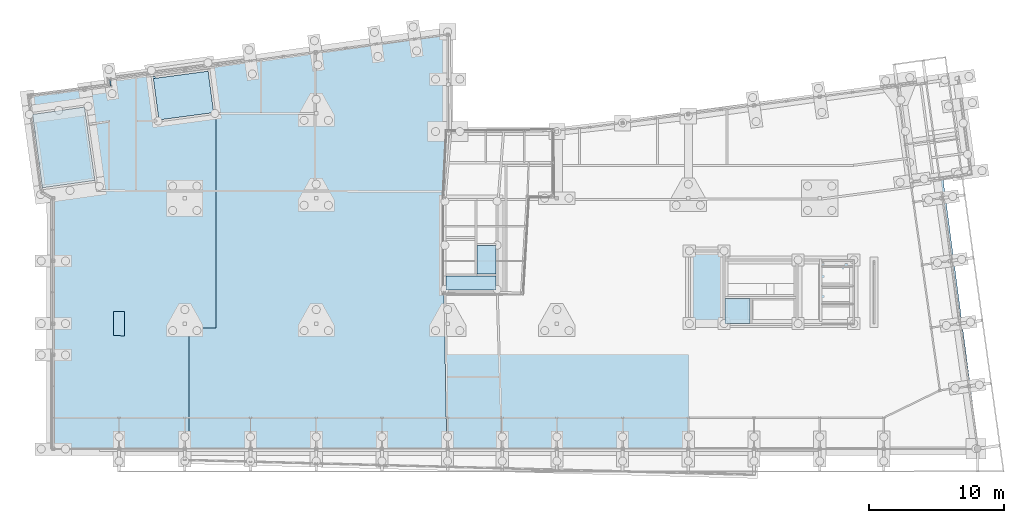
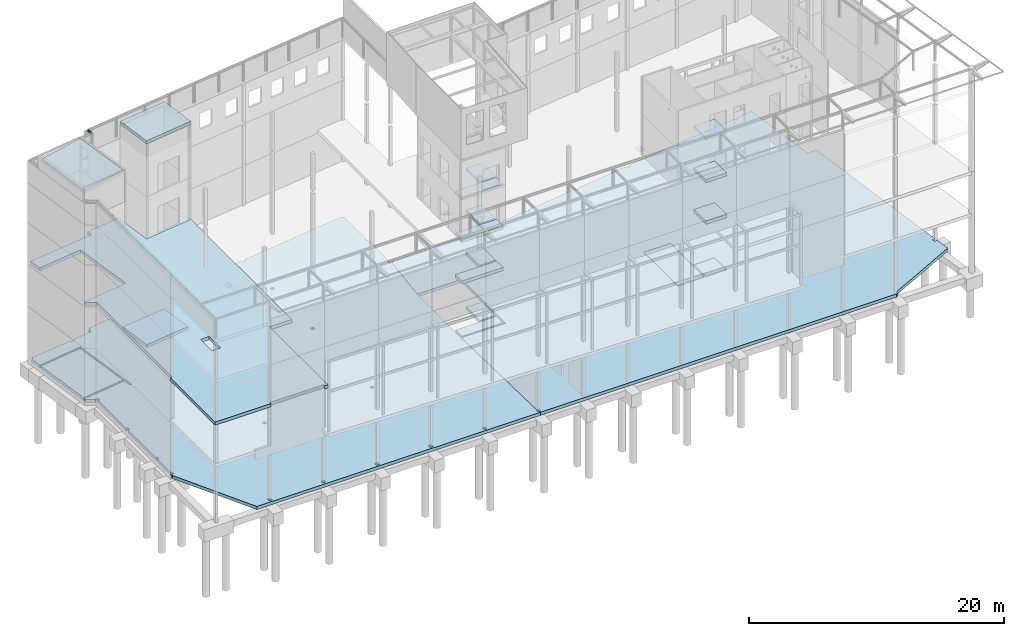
# One storey, part 66 of 82: 20 slabs, 1 beam.
"""IFC2X3 building model written with IfcOpenShell, lengths in millimetres."""

import ifcopenshell
import ifcopenshell.guid

model = None  # the IFC model being written
_history = None  # IfcOwnerHistory: only IFC2X3 demands one
_inside = {}  # id of a spatial element -> (the spatial element, [elements in it])
_under = {}  # id of a project, library or spatial element -> (it, [spatial elements below it])
_declared = {}  # id of a project -> (the project, [libraries it declares])
_typed = {}  # id of a type object -> (the type object, [elements of that type])
_made_of = {}  # id of a material, layer set ... -> (it, [elements and type objects made of it])


def new_model(schema):
    """Start an empty IFC model of exactly this schema.

    Asked for "IFC4X3", IfcOpenShell would pick the latest addendum, in which some entities
    have other attributes; the version numbers below select the first issue.
    IFC2X3 requires an IfcOwnerHistory on every rooted entity: one is made here for all.
    """
    global model, _history
    if schema == "IFC4X3":
        model = ifcopenshell.file(schema_version=(4, 3, 0, 0))
    else:
        model = ifcopenshell.file(schema=schema)
    _inside.clear()
    _under.clear()
    _declared.clear()
    _typed.clear()
    _made_of.clear()
    _history = None
    if model.schema == "IFC2X3":
        org = make("IfcOrganization", Name="unknown")
        user = make(
            "IfcPersonAndOrganization",
            ThePerson=make("IfcPerson", FamilyName="unknown"),
            TheOrganization=org,
        )
        app = make(
            "IfcApplication",
            ApplicationDeveloper=org,
            Version="unknown",
            ApplicationFullName="unknown",
            ApplicationIdentifier="unknown",
        )
        _history = make(
            "IfcOwnerHistory",
            OwningUser=user,
            OwningApplication=app,
            ChangeAction="ADDED",
            CreationDate=0,
        )
    return model


def make(cls, **values):
    """One entity of the class cls with the attributes given. An attribute that is None is left unset."""
    return model.create_entity(
        cls, **{name: value for name, value in values.items() if value is not None}
    )


def rooted(cls, **values):
    """An entity with a GlobalId (a new one), such as an element, a storey or a relation."""
    return make(cls, GlobalId=ifcopenshell.guid.new(), OwnerHistory=_history, **values)


def si_unit(unit_type, name, prefix=None):
    """IfcSIUnit, for example si_unit("LENGTHUNIT", "METRE", prefix="MILLI")."""
    return make("IfcSIUnit", UnitType=unit_type, Prefix=prefix, Name=name)


def assignment(units):
    """IfcUnitAssignment: the units of a project."""
    return None if units is None else make("IfcUnitAssignment", Units=units)


def point(xyz):
    """IfcCartesianPoint."""
    return None if xyz is None else make("IfcCartesianPoint", Coordinates=xyz)


def direction(xyz):
    """IfcDirection."""
    return None if xyz is None else make("IfcDirection", DirectionRatios=xyz)


def frame(location, z_axis=None, x_axis=None):
    """IfcAxis2Placement3D, a coordinate frame: its origin and axes. An axis left out is left unset."""
    return make(
        "IfcAxis2Placement3D",
        Location=point(location),
        Axis=direction(z_axis),
        RefDirection=direction(x_axis),
    )


def frame_2d(location, x_axis=None):
    """IfcAxis2Placement2D, a coordinate frame in the plane: its origin and x axis."""
    return make(
        "IfcAxis2Placement2D", Location=point(location), RefDirection=direction(x_axis)
    )


def origin_with_axes():
    """The frame at (0, 0, 0) with the z axis (0, 0, 1) and the x axis (1, 0, 0) written out."""
    return frame((0.0, 0.0, 0.0), z_axis=(0.0, 0.0, 1.0), x_axis=(1.0, 0.0, 0.0))


def place(relative_to, where):
    """IfcLocalPlacement: puts the frame where relative to a parent placement (None: the world)."""
    return make(
        "IfcLocalPlacement", PlacementRelTo=relative_to, RelativePlacement=where
    )


def context(
    kind, dimensions, precision=None, world=None, true_north=None, identifier=None
):
    """IfcGeometricRepresentationContext, for example the 3D "Model" context."""
    return make(
        "IfcGeometricRepresentationContext",
        ContextIdentifier=identifier,
        ContextType=kind,
        CoordinateSpaceDimension=dimensions,
        Precision=precision,
        WorldCoordinateSystem=world,
        TrueNorth=true_north,
    )


def subcontext(parent, identifier, kind, view, scale=None):
    """IfcGeometricRepresentationSubContext, for example "Body" below "Model"."""
    return make(
        "IfcGeometricRepresentationSubContext",
        ContextIdentifier=identifier,
        ContextType=kind,
        ParentContext=parent,
        TargetScale=scale,
        TargetView=view,
    )


def project(units=None, contexts=None):
    """IfcProject with its units and contexts."""
    return rooted(
        "IfcProject",
        Name="project",
        RepresentationContexts=contexts,
        UnitsInContext=assignment(units),
    )


def spatial(cls, under=None, at=None, **own):
    """A site, building, storey or space (cls), placed at a placement, below another one or the project."""
    s = rooted(cls, ObjectPlacement=at, **own)
    if under is not None:
        _under.setdefault(under.id(), (under, []))[1].append(s)
    return s


def polyline(points):
    """IfcPolyline through the points."""
    return make("IfcPolyline", Points=[point(p) for p in points])


def profile(cls, at=None, kind="AREA", **sizes):
    """A parametric profile (cls). Its sizes go by their IFC names, for example OverallWidth=200.0."""
    return make(cls, ProfileType=kind, Position=at, **sizes)


def rectangle(**sizes):
    """IfcRectangleProfileDef."""
    return profile("IfcRectangleProfileDef", **sizes)


def i_section(**sizes):
    """IfcIShapeProfileDef."""
    return profile("IfcIShapeProfileDef", **sizes)


def outline(outer, holes=None, kind="AREA"):
    """IfcArbitraryClosedProfileDef: a profile drawn as a closed curve; with holes, ...WithVoids."""
    if holes is None:
        return make("IfcArbitraryClosedProfileDef", ProfileType=kind, OuterCurve=outer)
    return make(
        "IfcArbitraryProfileDefWithVoids",
        ProfileType=kind,
        OuterCurve=outer,
        InnerCurves=holes,
    )


def extrude(swept, where, along, depth):
    """IfcExtrudedAreaSolid: the profile swept, set in the frame where, extruded along a direction by depth."""
    return make(
        "IfcExtrudedAreaSolid",
        SweptArea=swept,
        Position=where,
        ExtrudedDirection=direction(along),
        Depth=depth,
    )


def boolean(op, a, b):
    """IfcBooleanResult of two solids."""
    return make("IfcBooleanResult", Operator=op, FirstOperand=a, SecondOperand=b)


def shape(context_of_items, identifier, shape_type, items):
    """IfcShapeRepresentation: the items that make up one representation, for example the "Body"."""
    return make(
        "IfcShapeRepresentation",
        ContextOfItems=context_of_items,
        RepresentationIdentifier=identifier,
        RepresentationType=shape_type,
        Items=items,
    )


def material(Name=None, Category=None):
    """IfcMaterial."""
    return make("IfcMaterial", Name=Name, Category=Category)


def layer(
    of_material, thickness, ventilated=None, Name=None, Category=None, Priority=None
):
    """IfcMaterialLayer: one layer of a wall or slab, of a material (None: an air gap)."""
    return make(
        "IfcMaterialLayer",
        Material=of_material,
        LayerThickness=thickness,
        IsVentilated=ventilated,
        Name=Name,
        Category=Category,
        Priority=Priority,
    )


def layer_set(layers, Name=None):
    """IfcMaterialLayerSet."""
    return make("IfcMaterialLayerSet", MaterialLayers=layers, LayerSetName=Name)


def layer_usage(for_layer_set, set_direction, sense, offset, extent=None):
    """IfcMaterialLayerSetUsage: how a layer set lies in its element."""
    return make(
        "IfcMaterialLayerSetUsage",
        ForLayerSet=for_layer_set,
        LayerSetDirection=set_direction,
        DirectionSense=sense,
        OffsetFromReferenceLine=offset,
        ReferenceExtent=extent,
    )


def made_of(thing, what):
    """Note that an element or type object is made of a material, layer set ...; save() writes the relation."""
    if what is not None:
        _made_of.setdefault(what.id(), (what, []))[1].append(thing)
    return thing


def type_object(cls, material=None, **own):
    """A type object (cls), such as IfcWallType, which elements share."""
    return made_of(rooted(cls, **own), material)


def element(
    cls,
    number,
    at=None,
    inside=None,
    cuts=None,
    type_object=None,
    material=None,
    context=None,
    identifier="Body",
    shape_type=None,
    held_by="IfcProductDefinitionShape",
    body=None,
    shapes=None,
    **own,
):
    """One element of the class cls, such as IfcWall. Its Tag is "e" and its number.

    at: its placement. inside: the storey or other place that contains it. cuts: it is an
    opening in that element (IfcRelVoidsElement). A single representation is given by context,
    identifier, shape_type and body (its items); several are given by shapes. held_by: the class
    of the entity that holds the representations. save() writes the other relations.
    """
    e = rooted(cls, Tag="e%d" % number, ObjectPlacement=at, **own)
    if body is not None:
        shapes = [shape(context, identifier, shape_type, body)]
    if shapes is not None:
        e.Representation = make(held_by, Representations=shapes)
    if inside is not None:
        _inside.setdefault(inside.id(), (inside, []))[1].append(e)
    if cuts is not None:
        rooted(
            "IfcRelVoidsElement", RelatingBuildingElement=cuts, RelatedOpeningElement=e
        )
    if type_object is not None:
        _typed.setdefault(type_object.id(), (type_object, []))[1].append(e)
    return made_of(e, material)


def aggregate(whole, parts):
    """IfcRelAggregates: a whole, such as a stair, and the parts it consists of."""
    return rooted("IfcRelAggregates", RelatingObject=whole, RelatedObjects=parts)


def save(model, path):
    """Write the relations noted so far, then the file.

    IfcRelAggregates (storeys below a building ...), IfcRelContainedInSpatialStructure (elements
    in a storey), IfcRelDefinesByType, IfcRelAssociatesMaterial and IfcRelDeclares: one each for
    every whole, place, type object, material and project.
    """
    for whole, parts in _under.values():
        aggregate(whole, parts)
    for where, things in _inside.values():
        rooted(
            "IfcRelContainedInSpatialStructure",
            RelatedElements=things,
            RelatingStructure=where,
        )
    for kind, things in _typed.values():
        rooted("IfcRelDefinesByType", RelatedObjects=things, RelatingType=kind)
    for what, things in _made_of.values():
        rooted("IfcRelAssociatesMaterial", RelatedObjects=things, RelatingMaterial=what)
    for by, libraries in _declared.values():
        rooted("IfcRelDeclares", RelatingContext=by, RelatedDefinitions=libraries)
    model.write(path)


model = new_model("IFC2X3")

# Units and contexts
model_context = context("Model", 3, precision=1e-05, world=origin_with_axes())
body_context = subcontext(model_context, "Body", "Model", "MODEL_VIEW")
ifc_project = project(units=[si_unit("LENGTHUNIT", "METRE", prefix="MILLI"), si_unit("AREAUNIT", "SQUARE_METRE"), si_unit("VOLUMEUNIT", "CUBIC_METRE"), si_unit("MASSUNIT", "GRAM", prefix="KILO"), si_unit("TIMEUNIT", "SECOND"), si_unit("PLANEANGLEUNIT", "RADIAN"), si_unit("SOLIDANGLEUNIT", "STERADIAN"), si_unit("THERMODYNAMICTEMPERATUREUNIT", "DEGREE_CELSIUS"), si_unit("LUMINOUSINTENSITYUNIT", "LUMEN")], contexts=[model_context])

# Site, building, storey
site_placement = place(None, origin_with_axes())
site = spatial("IfcSite", under=ifc_project, at=site_placement, Name="Undefined", CompositionType="ELEMENT")
building_placement = place(site_placement, origin_with_axes())
building = spatial("IfcBuilding", under=site, at=building_placement, Name="Undefined", CompositionType="ELEMENT")
storey_placement = place(building_placement, origin_with_axes())
storey = spatial("IfcBuildingStorey", under=building, at=storey_placement, Name="Undefined", CompositionType="ELEMENT", Elevation=0.0)

# Beam
ifc_material_1 = material(Name="STEEL/S275JR")
beam_type = type_object("IfcBeamType", Name="IPE200", PredefinedType="NOTDEFINED")
beam_placement = place(storey_placement, frame((4253.42857384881, 26909.6952345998, 19025.0), z_axis=(0.0, 0.0, 1.0), x_axis=(-0.132305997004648, 0.991208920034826, 0.0)))
element("IfcBeam", 1, at=beam_placement, inside=storey, type_object=beam_type, material=ifc_material_1, Name="POUTRE", ObjectType="IPE200", context=body_context, shape_type="SweptSolid", body=[
    extrude(i_section(OverallWidth=100.0, OverallDepth=200.0, WebThickness=5.599999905, FlangeThickness=8.5, FilletRadius=12.0, at=frame_2d((5.17284206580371e-08, 4.49290382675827e-10), x_axis=(1.0, 0.0))), frame((495.998357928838, 0.0, 0.0), z_axis=(-1.0, 0.0, 0.0), x_axis=(-2.77555756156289e-17, -1.0, 0.0)), (0.0, 0.0, 1.0), 492.0),
])

# Slabs
ifc_material_2 = material(Name="CONCRETE/C30/37")
ifc_layer = layer(ifc_material_2, 300.0)
ifc_layer_set = layer_set([ifc_layer], Name="Floor: Insitu CONCRETE/C30/37")
ifc_layer_usage_1 = layer_usage(ifc_layer_set, "AXIS3", "POSITIVE", -150.0)
slab_type_1 = type_object("IfcSlabType", Name="300*3929", PredefinedType="NOTDEFINED")
slab_1_placement = place(storey_placement, frame((3099.04094366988, 19928.6061201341, 20009.0736937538), z_axis=(-0.0863451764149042, -0.0118589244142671, 0.99619469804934), x_axis=(-0.140890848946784, 0.990025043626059, -0.000426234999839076)))
element("IfcSlab", 2, at=slab_1_placement, inside=storey, type_object=slab_type_1, material=ifc_layer_usage_1, Name="DALLE", ObjectType="300*3929", PredefinedType="FLOOR", context=body_context, shape_type="SweptSolid", body=[
    extrude(outline(polyline([(5.17284206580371e-08, 4.49290382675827e-10), (5492.83007816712, -2.71211320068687e-09), (5492.73974613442, 3881.1633300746), (6.84182410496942, 3928.99951171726), (5.17284206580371e-08, 4.49290382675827e-10)])), frame((-3.63806012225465e-12, 9.115763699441e-13, -150.0), z_axis=(0.0, 0.0, 1.0), x_axis=(1.0, 0.0, 0.0)), (0.0, 0.0, 1.0), 300.0),
])
ifc_layer_usage_2 = layer_usage(ifc_layer_set, "AXIS3", "POSITIVE", -150.0)
slab_type_2 = type_object("IfcSlabType", Name="300*1866", PredefinedType="NOTDEFINED")
slab_2_placement = place(storey_placement, frame((51690.6910059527, 11175.000000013, 13180.0), z_axis=(0.0, 0.0, 1.0), x_axis=(-1.0, 0.0, 0.0)))
element("IfcSlab", 3, at=slab_2_placement, inside=storey, type_object=slab_type_2, material=ifc_layer_usage_2, Name="DALLE", ObjectType="300*1866", PredefinedType="FLOOR", context=body_context, shape_type="SweptSolid", body=[
    extrude(outline(polyline([(5.17284206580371e-08, 4.49290382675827e-10), (1865.69104003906, 6.74299371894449e-09), (1865.69104003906, 1875.0), (1.36205926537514e-08, 1875.0), (5.17284206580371e-08, 4.49290382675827e-10)])), frame((-3.63806012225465e-12, 9.115763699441e-13, -150.0), z_axis=(0.0, 0.0, 1.0), x_axis=(1.0, 0.0, 0.0)), (0.0, 0.0, 1.0), 300.0),
])
ifc_layer_usage_3 = layer_usage(ifc_layer_set, "AXIS3", "POSITIVE", -150.0)
slab_3_placement = place(storey_placement, frame((51690.6910059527, 11175.000000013, 9155.0), z_axis=(0.0, 0.0, 1.0), x_axis=(-1.0, 0.0, 0.0)))
element("IfcSlab", 4, at=slab_3_placement, inside=storey, type_object=slab_type_2, material=ifc_layer_usage_3, Name="DALLE", ObjectType="300*1866", PredefinedType="FLOOR", context=body_context, shape_type="SweptSolid", body=[
    extrude(outline(polyline([(5.17284206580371e-08, 4.49290382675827e-10), (1865.69104003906, 6.74299371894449e-09), (1865.69104003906, 1875.0), (1.36205926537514e-08, 1875.0), (5.17284206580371e-08, 4.49290382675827e-10)])), frame((-3.63806012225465e-12, 9.115763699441e-13, -150.0), z_axis=(0.0, 0.0, 1.0), x_axis=(1.0, 0.0, 0.0)), (0.0, 0.0, 1.0), 300.0),
])
ifc_layer_usage_4 = layer_usage(ifc_layer_set, "AXIS3", "POSITIVE", -150.0)
slab_4_placement = place(storey_placement, frame((51690.6910059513, 11175.0000000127, 5150.0), z_axis=(0.0, 0.0, 1.0), x_axis=(-1.0, 0.0, 0.0)))
element("IfcSlab", 5, at=slab_4_placement, inside=storey, type_object=slab_type_2, material=ifc_layer_usage_4, Name="DALLE", ObjectType="300*1866", PredefinedType="FLOOR", context=body_context, shape_type="SweptSolid", body=[
    extrude(outline(polyline([(5.17284206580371e-08, 4.49290382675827e-10), (1865.69104003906, 6.74299371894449e-09), (1865.69104003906, 1875.0), (1.36205926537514e-08, 1875.0), (5.17284206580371e-08, 4.49290382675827e-10)])), frame((-3.63806012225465e-12, 9.115763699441e-13, -150.0), z_axis=(0.0, 0.0, 1.0), x_axis=(1.0, 0.0, 0.0)), (0.0, 0.0, 1.0), 300.0),
])
ifc_layer_usage_5 = layer_usage(ifc_layer_set, "AXIS3", "POSITIVE", -150.0)
slab_5_placement = place(storey_placement, frame((51690.691005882, 11174.9999999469, -150.0), z_axis=(0.0, 0.0, 1.0), x_axis=(-1.0, 0.0, 0.0)))
element("IfcSlab", 6, at=slab_5_placement, inside=storey, type_object=slab_type_2, material=ifc_layer_usage_5, Name="DALLE", ObjectType="300*1866", PredefinedType="FLOOR", context=body_context, shape_type="SweptSolid", body=[
    extrude(outline(polyline([(5.17284206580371e-08, 4.49290382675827e-10), (1865.69165039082, 2.62298271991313e-09), (1865.69067381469, 1875.00036621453), (-0.000948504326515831, 1874.99975585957), (5.17284206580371e-08, 4.49290382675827e-10)])), frame((-3.63806012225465e-12, 9.115763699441e-13, -150.0), z_axis=(0.0, 0.0, 1.0), x_axis=(1.0, 0.0, 0.0)), (0.0, 0.0, 1.0), 300.0),
])
ifc_layer_usage_6 = layer_usage(ifc_layer_set, "AXIS3", "POSITIVE", -150.0)
slab_type_3 = type_object("IfcSlabType", Name="300*1430", PredefinedType="NOTDEFINED")
slab_6_placement = place(storey_placement, frame((31418.7636305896, 15100.9697770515, 13179.9999999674), z_axis=(0.0, 0.0, 1.0), x_axis=(-2.77555756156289e-17, -1.0, 0.0)))
element("IfcSlab", 7, at=slab_6_placement, inside=storey, type_object=slab_type_3, material=ifc_layer_usage_6, Name="DALLE", ObjectType="300*1430", PredefinedType="FLOOR", context=body_context, shape_type="SweptSolid", body=[
    extrude(outline(polyline([(5.17284206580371e-08, 4.49290382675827e-10), (2135.90112304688, -1.59343471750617e-09), (2135.90112304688, 1429.97204589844), (0.0, 1429.97204589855), (5.17284206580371e-08, 4.49290382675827e-10)])), frame((-3.63806012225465e-12, 9.115763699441e-13, -150.0), z_axis=(0.0, 0.0, 1.0), x_axis=(1.0, 0.0, 0.0)), (0.0, 0.0, 1.0), 300.0),
])
ifc_layer_usage_7 = layer_usage(ifc_layer_set, "AXIS3", "POSITIVE", -150.0)
slab_7_placement = place(storey_placement, frame((31418.7636305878, 15100.9697770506, 9154.99999996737), z_axis=(0.0, 0.0, 1.0), x_axis=(-2.77555756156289e-17, -1.0, 0.0)))
element("IfcSlab", 8, at=slab_7_placement, inside=storey, type_object=slab_type_3, material=ifc_layer_usage_7, Name="DALLE", ObjectType="300*1430", PredefinedType="FLOOR", context=body_context, shape_type="SweptSolid", body=[
    extrude(outline(polyline([(5.17284206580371e-08, 4.49290382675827e-10), (2135.90112304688, -1.59343471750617e-09), (2135.90112304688, 1429.97204589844), (0.0, 1429.97204589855), (5.17284206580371e-08, 4.49290382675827e-10)])), frame((-3.63806012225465e-12, 9.115763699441e-13, -150.0), z_axis=(0.0, 0.0, 1.0), x_axis=(1.0, 0.0, 0.0)), (0.0, 0.0, 1.0), 300.0),
])
ifc_layer_usage_8 = layer_usage(ifc_layer_set, "AXIS3", "POSITIVE", -150.0)
slab_8_placement = place(storey_placement, frame((31418.7636305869, 15100.9697770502, 5149.99999996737), z_axis=(0.0, 0.0, 1.0), x_axis=(-2.77555756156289e-17, -1.0, 0.0)))
element("IfcSlab", 9, at=slab_8_placement, inside=storey, type_object=slab_type_3, material=ifc_layer_usage_8, Name="DALLE", ObjectType="300*1430", PredefinedType="FLOOR", context=body_context, shape_type="SweptSolid", body=[
    extrude(outline(polyline([(5.17284206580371e-08, 4.49290382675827e-10), (2135.90112304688, -1.59343471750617e-09), (2135.90112304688, 1429.97204589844), (0.0, 1429.97204589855), (5.17284206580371e-08, 4.49290382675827e-10)])), frame((-3.63806012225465e-12, 9.115763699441e-13, -150.0), z_axis=(0.0, 0.0, 1.0), x_axis=(1.0, 0.0, 0.0)), (0.0, 0.0, 1.0), 300.0),
])
ifc_layer_usage_9 = layer_usage(ifc_layer_set, "AXIS3", "POSITIVE", -150.0)
slab_9_placement = place(storey_placement, frame((31418.7636301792, 12965.0686917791, -150.0), z_axis=(0.0, 0.0, 1.0), x_axis=(1.0, 0.0, 0.0)))
element("IfcSlab", 10, at=slab_9_placement, inside=storey, type_object=slab_type_3, material=ifc_layer_usage_9, Name="DALLE", ObjectType="300*1430", PredefinedType="FLOOR", context=body_context, shape_type="SweptSolid", body=[
    extrude(outline(polyline([(5.17284206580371e-08, 4.49290382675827e-10), (1429.97204589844, 0.0), (1429.97204589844, 2135.90112304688), (0.0, 2135.90112304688), (5.17284206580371e-08, 4.49290382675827e-10)])), frame((-3.63806012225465e-12, 9.115763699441e-13, -150.0), z_axis=(0.0, 0.0, 1.0), x_axis=(1.0, 0.0, 0.0)), (0.0, 0.0, 1.0), 300.0),
])
ifc_layer_usage_10 = layer_usage(ifc_layer_set, "AXIS3", "POSITIVE", -150.0)
slab_type_4 = type_object("IfcSlabType", Name="300*1020", PredefinedType="NOTDEFINED")
slab_10_placement = place(storey_placement, frame((32848.735692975, 12815.0686918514, 13179.9999999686), z_axis=(0.0, 0.0, 1.0), x_axis=(-1.0, 0.0, 0.0)))
element("IfcSlab", 11, at=slab_10_placement, inside=storey, type_object=slab_type_4, material=ifc_layer_usage_10, Name="DALLE", ObjectType="300*1020", PredefinedType="FLOOR", context=body_context, shape_type="SweptSolid", body=[
    extrude(outline(polyline([(5.17284206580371e-08, 4.49290382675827e-10), (3724.97216796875, 3.12684278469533e-09), (3724.97216796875, 1020.14605712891), (-7.27595761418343e-12, 1020.14605712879), (5.17284206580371e-08, 4.49290382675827e-10)])), frame((-3.63806012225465e-12, 9.115763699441e-13, -150.0), z_axis=(0.0, 0.0, 1.0), x_axis=(1.0, 0.0, 0.0)), (0.0, 0.0, 1.0), 300.0),
])
ifc_layer_usage_11 = layer_usage(ifc_layer_set, "AXIS3", "POSITIVE", -150.0)
slab_11_placement = place(storey_placement, frame((32848.7356929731, 12815.0686918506, 9154.99999996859), z_axis=(0.0, 0.0, 1.0), x_axis=(-1.0, 0.0, 0.0)))
element("IfcSlab", 12, at=slab_11_placement, inside=storey, type_object=slab_type_4, material=ifc_layer_usage_11, Name="DALLE", ObjectType="300*1020", PredefinedType="FLOOR", context=body_context, shape_type="SweptSolid", body=[
    extrude(outline(polyline([(5.17284206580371e-08, 4.49290382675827e-10), (3724.97216796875, 3.12684278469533e-09), (3724.97216796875, 1020.14605712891), (-7.27595761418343e-12, 1020.14605712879), (5.17284206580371e-08, 4.49290382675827e-10)])), frame((-3.63806012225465e-12, 9.115763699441e-13, -150.0), z_axis=(0.0, 0.0, 1.0), x_axis=(1.0, 0.0, 0.0)), (0.0, 0.0, 1.0), 300.0),
])
ifc_layer_usage_12 = layer_usage(ifc_layer_set, "AXIS3", "POSITIVE", -150.0)
slab_12_placement = place(storey_placement, frame((32848.7356929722, 12815.0686918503, 5149.99999996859), z_axis=(0.0, 0.0, 1.0), x_axis=(-1.0, 0.0, 0.0)))
element("IfcSlab", 13, at=slab_12_placement, inside=storey, type_object=slab_type_4, material=ifc_layer_usage_12, Name="DALLE", ObjectType="300*1020", PredefinedType="FLOOR", context=body_context, shape_type="SweptSolid", body=[
    extrude(outline(polyline([(5.17284206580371e-08, 4.49290382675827e-10), (3724.97216796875, 3.12684278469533e-09), (3724.97216796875, 1020.14605712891), (-7.27595761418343e-12, 1020.14605712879), (5.17284206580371e-08, 4.49290382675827e-10)])), frame((-3.63806012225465e-12, 9.115763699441e-13, -150.0), z_axis=(0.0, 0.0, 1.0), x_axis=(1.0, 0.0, 0.0)), (0.0, 0.0, 1.0), 300.0),
])
ifc_layer_usage_13 = layer_usage(ifc_layer_set, "AXIS3", "POSITIVE", -150.0)
slab_13_placement = place(storey_placement, frame((32848.7356925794, 12815.0686917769, -150.0), z_axis=(0.0, 0.0, 1.0), x_axis=(-1.0, 0.0, 0.0)))
element("IfcSlab", 14, at=slab_13_placement, inside=storey, type_object=slab_type_4, material=ifc_layer_usage_13, Name="DALLE", ObjectType="300*1020", PredefinedType="FLOOR", context=body_context, shape_type="SweptSolid", body=[
    extrude(outline(polyline([(5.17284206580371e-08, 4.49290382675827e-10), (3724.97216796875, 3.12684278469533e-09), (3724.97216796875, 1020.14605712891), (-7.27595761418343e-12, 1020.14605712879), (5.17284206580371e-08, 4.49290382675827e-10)])), frame((-3.63806012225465e-12, 9.115763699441e-13, -150.0), z_axis=(0.0, 0.0, 1.0), x_axis=(1.0, 0.0, 0.0)), (0.0, 0.0, 1.0), 300.0),
])
ifc_layer_usage_14 = layer_usage(ifc_layer_set, "AXIS3", "POSITIVE", -150.0)
slab_type_5 = type_object("IfcSlabType", Name="300*3400", PredefinedType="NOTDEFINED")
slab_14_placement = place(storey_placement, frame((11612.5408393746, 28193.6379432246, 18549.9989624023), z_axis=(0.0, 0.0, 1.0), x_axis=(-0.99121555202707, -0.132256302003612, 0.0)))
element("IfcSlab", 15, at=slab_14_placement, inside=storey, type_object=slab_type_5, material=ifc_layer_usage_14, Name="DALLE", ObjectType="300*3400", PredefinedType="FLOOR", context=body_context, shape_type="SweptSolid", body=[
    extrude(outline(polyline([(5.17284206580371e-08, 4.49290382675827e-10), (4400.00000000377, -1.34241417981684e-09), (4400.00097656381, 3399.9995116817), (5.62960685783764e-05, 3399.99951168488), (5.17284206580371e-08, 4.49290382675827e-10)])), frame((-3.63806012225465e-12, 9.115763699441e-13, -150.0), z_axis=(0.0, 0.0, 1.0), x_axis=(1.0, 0.0, 0.0)), (0.0, 0.0, 1.0), 300.0),
])
ifc_layer_usage_15 = layer_usage(ifc_layer_set, "AXIS3", "POSITIVE", -150.0)
slab_type_6 = type_object("IfcSlabType", Name="300*13791", PredefinedType="NOTDEFINED")
slab_15_placement = place(storey_placement, frame((10045.8617583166, 8972.14046847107, 9155.0), z_axis=(0.0, 0.0, 1.0), x_axis=(0.999999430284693, -0.00106744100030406, 0.0)))
element("IfcSlab", 16, at=slab_15_placement, inside=storey, type_object=slab_type_6, material=ifc_layer_usage_15, Name="DALLE", ObjectType="300*13791", PredefinedType="FLOOR", context=body_context, shape_type="CSG", body=[
    boolean("DIFFERENCE", extrude(outline(polyline([(5.17284206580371e-08, 4.49290382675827e-10), (2011.24707031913, 7.98536348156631e-10), (1999.42858887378, 15853.5087891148), (-2361.29614258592, 15266.9257813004), (-2842.67163086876, 18847.1132813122), (-5895.1030273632, 18439.7792969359), (-5828.45166017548, 17944.2871094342), (-11792.9384766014, 17166.0078125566), (-11633.2988281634, 15979.2343750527), (-7629.59179690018, 16553.4609375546), (-6807.09912111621, 10819.3183594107), (-10861.9208984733, 10244.7675781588), (-10845.1533203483, 10120.1113281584), (-10071.1806640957, 9660.93945315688), (-10058.5839844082, -2140.07812500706), (-10238.5839844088, -2140.27221680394), (-10231.0712890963, -9178.06738284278), (-5163.92333986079, -9172.65820315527), (-5164.11572267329, -8992.65820315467), (-286.268707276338, -8987.45019534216), (-286.076538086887, -9167.45117190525), (9.78616237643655, -9167.13476565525), (5.17284206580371e-08, 4.49290382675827e-10)])), frame((-3.63806012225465e-12, 9.115763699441e-13, -150.0), z_axis=(0.0, 0.0, 1.0), x_axis=(1.0, 0.0, 0.0)), (0.0, 0.0, 1.0), 300.0), extrude(rectangle(XDim=800.0, YDim=1800.0, at=frame_2d((5.17284206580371e-08, 4.49290382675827e-10), x_axis=(1.0, 0.0))), frame((-5171.20878316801, 322.33975498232, 160.000000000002), z_axis=(0.0, -6.50000002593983e-08, -0.999999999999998), x_axis=(-1.0, 0.0, 0.0)), (0.0, 0.0, 1.0), 320.0)),
])
ifc_layer_usage_16 = layer_usage(ifc_layer_set, "AXIS3", "POSITIVE", -150.0)
slab_type_7 = type_object("IfcSlabType", Name="300*27379", PredefinedType="NOTDEFINED")
slab_16_placement = place(storey_placement, frame((61594.8817817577, -248.353181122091, -150.0), z_axis=(0.0, -6.50000002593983e-08, -0.999999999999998), x_axis=(-0.9999988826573, -0.0014948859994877, 0.0)))
solid_1 = boolean("DIFFERENCE", boolean("DIFFERENCE", boolean("DIFFERENCE", boolean("DIFFERENCE", boolean("DIFFERENCE", boolean("DIFFERENCE", boolean("DIFFERENCE", boolean("DIFFERENCE", extrude(outline(polyline([(5.17284206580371e-08, 4.49290382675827e-10), (32344.9179693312, -2.40844372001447e-07), (32344.660156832, 166.705016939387), (32214.6601568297, 166.509536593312), (32214.273438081, 426.510955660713), (32411.6230474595, 426.804931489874), (32603.3027350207, 11942.0283201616), (28578.3359380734, 11936.0107420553), (28567.9902349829, 18856.1484373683), (32586.5253913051, 18862.1562498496), (32172.7773444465, 23603.5273436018), (32087.0214850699, 23604.4062498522), (32088.5136725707, 23749.3964842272), (24340.6210943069, 23826.5468748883), (24321.7402349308, 23682.7792967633), (24063.9550786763, 23716.6445311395), (24082.8398443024, 23860.4101561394), (19464.6074223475, 24467.078124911), (19445.7128910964, 24323.314453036), (19187.9277348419, 24357.1777342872), (19206.822266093, 24500.9414061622), (14589.0625003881, 25107.5488280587), (14570.1787113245, 24963.7968749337), (14312.39355507, 24997.6601561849), (14331.2773441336, 25141.4140624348), (9713.53027374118, 25748.0195312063), (9694.64453155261, 25604.2539062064), (9436.85937529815, 25638.1171874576), (9455.74511748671, 25781.8828124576), (4836.28466818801, 26388.7128906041), (4817.39843771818, 26244.9433593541), (4559.61328146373, 26278.8066406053), (4578.49707052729, 26422.5566406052), (-996.266296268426, 27154.8984375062), (-1015.15179431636, 27011.1347656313), (-1272.9371336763, 27044.9980468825), (-1254.05163562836, 27188.7636718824), (-2705.2639159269, 27379.4003906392), (-3655.51147457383, 20183.0703125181), (-4149.95849606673, 20252.4238281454), (-4152.80175778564, 20232.6035156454), (-4435.00683591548, 20273.0839843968), (-6420.11279305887, 5033.56640628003), (-6178.29785164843, 5001.66943362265), (-6212.2993164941, 4743.90234377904), (-6453.69677743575, 4775.74414065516), (-6630.10302744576, 3421.48583987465), (-135.489227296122, 248.150680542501), (-206.630264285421, 102.332542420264), (5.17284206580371e-08, 4.49290382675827e-10)])), frame((-3.63806012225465e-12, 9.115763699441e-13, -150.0), z_axis=(0.0, 0.0, 1.0), x_axis=(1.0, 0.0, 0.0)), (0.0, 0.0, 1.0), 300.0), extrude(rectangle(XDim=260.0, YDim=260.0, at=frame_2d((5.17284206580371e-08, 4.49290382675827e-10), x_axis=(1.0, 0.0))), frame((-5.48794626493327, 248.345228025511, -5150.0), z_axis=(0.0, 0.0, 1.0), x_axis=(0.9999988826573, 0.0014948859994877, 0.0)), (0.0, 0.0, 1.0), 5450.0)), extrude(rectangle(XDim=260.0, YDim=260.0, at=frame_2d((5.17284206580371e-08, 4.49290382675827e-10), x_axis=(1.0, 0.0))), frame((28294.4789069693, 290.650526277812, -5150.0), z_axis=(0.0, 0.0, 1.0), x_axis=(0.9999988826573, 0.0014948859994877, 0.0)), (0.0, 0.0, 1.0), 5450.0)), extrude(rectangle(XDim=260.0, YDim=260.0, at=frame_2d((5.17284206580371e-08, 4.49290382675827e-10), x_axis=(1.0, 0.0))), frame((24244.4834322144, 284.596237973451, -5150.0), z_axis=(0.0, 0.0, 1.0), x_axis=(0.9999988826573, 0.0014948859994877, 0.0)), (0.0, 0.0, 1.0), 5450.0)), extrude(rectangle(XDim=260.0, YDim=260.0, at=frame_2d((5.17284206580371e-08, 4.49290382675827e-10), x_axis=(1.0, 0.0))), frame((19369.4888792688, 277.308668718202, -5150.0), z_axis=(0.0, 0.0, 1.0), x_axis=(0.9999988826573, 0.0014948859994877, 0.0)), (0.0, 0.0, 1.0), 5450.0)), extrude(rectangle(XDim=260.0, YDim=260.0, at=frame_2d((5.17284206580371e-08, 4.49290382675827e-10), x_axis=(1.0, 0.0))), frame((14494.4943263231, 270.021099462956, -5150.0), z_axis=(0.0, 0.0, 1.0), x_axis=(0.9999988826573, 0.0014948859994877, 0.0)), (0.0, 0.0, 1.0), 5450.0)), extrude(rectangle(XDim=260.0, YDim=260.0, at=frame_2d((5.17284206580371e-08, 4.49290382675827e-10), x_axis=(1.0, 0.0))), frame((9619.4997733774, 262.733530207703, -5150.0), z_axis=(0.0, 0.0, 1.0), x_axis=(0.9999988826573, 0.0014948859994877, 0.0)), (0.0, 0.0, 1.0), 5450.0)), extrude(rectangle(XDim=260.0, YDim=260.0, at=frame_2d((5.17284206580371e-08, 4.49290382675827e-10), x_axis=(1.0, 0.0))), frame((4744.50522043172, 255.445960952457, -5150.0), z_axis=(0.0, 0.0, 1.0), x_axis=(0.9999988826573, 0.0014948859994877, 0.0)), (0.0, 0.0, 1.0), 5450.0)), extrude(rectangle(XDim=260.0, YDim=260.0, at=frame_2d((5.17284206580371e-08, 4.49290382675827e-10), x_axis=(1.0, 0.0))), frame((32330.5719424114, 9596.69411047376, -5150.0), z_axis=(0.0, 0.0, 1.0), x_axis=(0.9999988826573, 0.0014948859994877, 0.0)), (0.0, 0.0, 1.0), 5450.1))
solid_2 = boolean("DIFFERENCE", boolean("DIFFERENCE", boolean("DIFFERENCE", boolean("DIFFERENCE", boolean("DIFFERENCE", boolean("DIFFERENCE", boolean("DIFFERENCE", boolean("DIFFERENCE", solid_1, extrude(rectangle(XDim=260.0, YDim=260.0, at=frame_2d((5.17284206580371e-08, 4.49290382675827e-10), x_axis=(1.0, 0.0))), frame((24230.5825187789, 9584.58553614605, -5150.0), z_axis=(0.0, 0.0, 1.0), x_axis=(0.9999988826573, 0.0014948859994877, 0.0)), (0.0, 0.0, 1.0), 5450.1)), extrude(rectangle(XDim=260.0, YDim=260.0, at=frame_2d((5.17284206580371e-08, 4.49290382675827e-10), x_axis=(1.0, 0.0))), frame((4716.70186693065, 18855.4250585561, -5150.0), z_axis=(0.0, 0.0, 1.0), x_axis=(0.9999988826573, 0.0014948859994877, 0.0)), (0.0, 0.0, 1.0), 5450.0)), extrude(rectangle(XDim=260.0, YDim=260.0, at=frame_2d((5.17284206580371e-08, 4.49290382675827e-10), x_axis=(1.0, 0.0))), frame((14466.6909728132, 18870.0001970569, -5150.0), z_axis=(0.0, 0.0, 1.0), x_axis=(0.9999988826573, 0.0014948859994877, 0.0)), (0.0, 0.0, 1.0), 5450.0)), extrude(rectangle(XDim=260.0, YDim=260.0, at=frame_2d((5.17284206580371e-08, 4.49290382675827e-10), x_axis=(1.0, 0.0))), frame((-5559.36128119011, 9529.58277403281, -5150.0), z_axis=(0.0, 0.0, 1.0), x_axis=(-0.130774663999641, -0.991412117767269, 0.0)), (0.0, 0.0, 1.0), 5450.0)), extrude(rectangle(XDim=260.0, YDim=260.0, at=frame_2d((5.17284206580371e-08, 4.49290382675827e-10), x_axis=(1.0, 0.0))), frame((-4944.74347732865, 14189.0217495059, -5150.0), z_axis=(0.0, 0.0, 1.0), x_axis=(-0.130774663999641, -0.991412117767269, 0.0)), (0.0, 0.0, 1.0), 5450.0)), extrude(rectangle(XDim=260.0, YDim=260.0, at=frame_2d((5.17284206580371e-08, 4.49290382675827e-10), x_axis=(1.0, 0.0))), frame((-4330.11620199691, 18848.5552540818, -5150.0), z_axis=(0.0, 0.0, 1.0), x_axis=(-0.130774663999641, -0.991412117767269, 0.0)), (0.0, 0.0, 1.0), 5450.0)), extrude(rectangle(XDim=260.0, YDim=260.0, at=frame_2d((5.17284206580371e-08, 4.49290382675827e-10), x_axis=(1.0, 0.0))), frame((-2072.81408615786, 20147.3797313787, -5150.0), z_axis=(0.0, 0.0, 1.0), x_axis=(0.137697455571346, 0.990474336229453, 4.15912306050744e-08)), (0.0, 0.0, 1.0), 5450.0)), extrude(rectangle(XDim=260.0, YDim=260.0, at=frame_2d((5.17284206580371e-08, 4.49290382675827e-10), x_axis=(1.0, 0.0))), frame((-2072.81408615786, 20147.3797313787, -5150.0), z_axis=(0.0, 0.0, 1.0), x_axis=(0.137697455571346, 0.990474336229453, 4.15912306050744e-08)), (0.0, 0.0, 1.0), 5450.0))
element("IfcSlab", 17, at=slab_16_placement, inside=storey, type_object=slab_type_7, material=ifc_layer_usage_16, Name="DALLE", ObjectType="300*27379", PredefinedType="FLOOR", context=body_context, shape_type="CSG", body=[
    boolean("DIFFERENCE", boolean("DIFFERENCE", solid_2, extrude(outline(polyline([(5.17284206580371e-08, 4.49290382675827e-10), (2725.00000000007, 0.0), (2725.0, 675.0), (9900.0, 675.0), (9900.0, 750.0), (12325.0, 750.0), (12325.0, 5549.80322265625), (9900.0, 5550.0), (9900.0, 5625.0), (0.0, 5625.0), (5.17284206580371e-08, 4.49290382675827e-10)])), frame((14472.4073856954, 15045.0045906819, -152.5), z_axis=(0.0, 0.0, 1.0), x_axis=(-0.9999988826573, -0.0014948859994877, 0.0)), (0.0, 0.0, 1.0), 305.0)), extrude(outline(polyline([(5.17284206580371e-08, 4.49290382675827e-10), (100.0, 0.0), (100.0, 4700.0), (0.0, 4700.0), (5.17284206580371e-08, 4.49290382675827e-10)])), frame((739.33586869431, 14224.4742975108, -152.5), z_axis=(0.0, 0.0, 1.0), x_axis=(-0.9999988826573, -0.0014948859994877, 0.0)), (0.0, 0.0, 1.0), 305.0)),
])
ifc_layer_usage_17 = layer_usage(ifc_layer_set, "AXIS3", "POSITIVE", -150.0)
slab_type_8 = type_object("IfcSlabType", Name="300*2425", PredefinedType="NOTDEFINED")
slab_17_placement = place(storey_placement, frame((49674.9993696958, 14625.0007284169, -150.0), z_axis=(0.0, 0.0, 1.0), x_axis=(-1.0, 0.0, 0.0)))
element("IfcSlab", 18, at=slab_17_placement, inside=storey, type_object=slab_type_8, material=ifc_layer_usage_17, Name="DALLE", ObjectType="300*2425", PredefinedType="FLOOR", context=body_context, shape_type="SweptSolid", body=[
    extrude(outline(polyline([(5.17284206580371e-08, 4.49290382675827e-10), (2424.99853515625, 0.0), (2424.99926757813, 5325.00048828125), (-0.00136270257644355, 5325.00048828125), (5.17284206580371e-08, 4.49290382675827e-10)])), frame((-3.63806012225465e-12, 9.115763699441e-13, -150.0), z_axis=(0.0, 0.0, 1.0), x_axis=(1.0, 0.0, 0.0)), (0.0, 0.0, 1.0), 300.0),
])
ifc_layer_usage_18 = layer_usage(ifc_layer_set, "AXIS3", "POSITIVE", -150.0)
slab_type_9 = type_object("IfcSlabType", Name="300*3100", PredefinedType="NOTDEFINED")
slab_18_placement = place(storey_placement, frame((7419.71258073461, 27482.867397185, -1150.00006215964), z_axis=(0.0, 0.0, 1.0), x_axis=(0.132256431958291, -0.991215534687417, 0.0)))
element("IfcSlab", 19, at=slab_18_placement, inside=storey, type_object=slab_type_9, material=ifc_layer_usage_18, Name="DALLE", ObjectType="300*3100", PredefinedType="FLOOR", context=body_context, shape_type="SweptSolid", body=[
    extrude(outline(polyline([(5.17284206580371e-08, 4.49290382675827e-10), (3100.0009765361, -1.14850990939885e-08), (3100.00073238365, 4099.99902343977), (-5.3114490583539e-09, 4099.9990234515), (5.17284206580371e-08, 4.49290382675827e-10)])), frame((-3.63806012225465e-12, 9.115763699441e-13, -150.0), z_axis=(0.0, 0.0, 1.0), x_axis=(1.0, 0.0, 0.0)), (0.0, 0.0, 1.0), 300.0),
])
ifc_layer_usage_19 = layer_usage(ifc_layer_set, "AXIS3", "POSITIVE", -150.0)
slab_type_10 = type_object("IfcSlabType", Name="300*3944", PredefinedType="NOTDEFINED")
slab_19_placement = place(storey_placement, frame((2306.58001041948, 25364.0949659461, -149.999988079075), z_axis=(0.0, 0.0, 1.0), x_axis=(-0.99002185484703, -0.140913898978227, 0.0)))
element("IfcSlab", 20, at=slab_19_placement, inside=storey, type_object=slab_type_10, material=ifc_layer_usage_19, Name="DALLE", ObjectType="300*3944", PredefinedType="FLOOR", context=body_context, shape_type="SweptSolid", body=[
    extrude(outline(polyline([(5.17284206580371e-08, 4.49290382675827e-10), (3895.98876952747, -1.42426870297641e-08), (3943.93066404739, 5485.89697261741), (-0.076788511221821, 5492.83056638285), (5.17284206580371e-08, 4.49290382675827e-10)])), frame((-3.63806012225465e-12, 9.115763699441e-13, -150.0), z_axis=(0.0, 0.0, 1.0), x_axis=(1.0, 0.0, 0.0)), (0.0, 0.0, 1.0), 300.0),
])
ifc_layer_usage_20 = layer_usage(ifc_layer_set, "AXIS3", "POSITIVE", -150.0)
slab_type_11 = type_object("IfcSlabType", Name="300*31019", PredefinedType="NOTDEFINED")
slab_20_placement = place(storey_placement, frame((-105.666206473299, 6670.00478756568, -150.0), z_axis=(0.0, 0.0, 1.0), x_axis=(0.459247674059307, -0.888308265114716, 0.0)))
solid_3 = boolean("DIFFERENCE", boolean("DIFFERENCE", boolean("DIFFERENCE", boolean("DIFFERENCE", boolean("DIFFERENCE", boolean("DIFFERENCE", boolean("DIFFERENCE", boolean("DIFFERENCE", extrude(outline(polyline([(5.17284206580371e-08, 4.49290382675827e-10), (7885.97802734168, 1.7066668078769e-09), (19670.1074218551, 22877.4355468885), (19522.0214843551, 22953.9941406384), (19462.3203124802, 22838.5136718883), (19231.3593749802, 22957.9199218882), (19260.1347656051, 23013.5781250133), (8935.39941404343, 28116.2187500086), (2788.17797849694, 31294.2792968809), (2791.13232420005, 31299.9921875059), (-1234.45507814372, 33838.9765625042), (-1312.64184572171, 33683.2656250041), (-1544.99304201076, 33799.937500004), (-1479.95935060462, 33929.5390625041), (-4465.87548829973, 35428.9062500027), (-4530.94140626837, 35299.3320312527), (-4763.29248048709, 35416.0039062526), (-4698.22656251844, 35545.5820312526), (-7775.85986329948, 37091.0078125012), (-7840.91308595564, 36961.4609375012), (-7941.78173829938, 37012.0703125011), (-11192.8798828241, 27979.7753906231), (-11056.4521484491, 27930.6699218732), (-11144.5058593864, 27686.0351562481), (-11280.8701171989, 27735.117187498), (-14512.1269531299, 18758.152343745), (-14375.6513671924, 18709.1796874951), (-14463.7050781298, 18464.542968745), (-14600.1806640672, 18513.5156249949), (-16418.0390625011, 13463.5996093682), (-16281.5820312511, 13414.4492187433), (-16330.6455078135, 13278.1406249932), (-15996.4208984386, 13158.2167968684), (-16616.1621093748, 11452.2861328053), (-16480.1601562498, 11403.5195312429), (-16567.9707031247, 11158.7958984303), (-16704.9433593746, 11207.9121093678), (-18000.7539062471, 7641.0180663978), (-17864.9570312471, 7591.68505858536), (-17914.291015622, 7455.88623046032), (-16923.1777343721, 7100.26416014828), (-15590.4970703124, 10919.0810546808), (-10120.8681640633, 9010.38964843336), (-9439.70605468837, 8772.69042968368), (-9509.59765625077, 8638.20898437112), (-10170.5410156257, 8868.85253905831), (-11477.0341796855, 5146.12792968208), (-11358.6455078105, 5103.64892577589), (-11279.0712890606, 5153.21923827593), (-10708.3710937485, 5508.74169921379), (-10724.166992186, 5516.90820312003), (-10604.7636718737, 5747.86914062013), (-10373.8056640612, 5628.46533202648), (-10440.3945312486, 5499.65966796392), (-6540.72558593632, 3483.56420898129), (-6474.13427734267, 3612.36914062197), (-6243.17480468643, 3492.96484374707), (-6309.76513671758, 3364.15917968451), (-2410.09155273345, 1348.06286620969), (-2343.50170898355, 1476.86791992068), (-2112.54003906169, 1357.46252441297), (-2179.13159179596, 1228.65820312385), (-344.774383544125, 280.311248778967), (-278.183990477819, 409.116485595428), (-47.2238502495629, 289.712097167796), (-155.453002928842, 80.3678588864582), (5.17284206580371e-08, 4.49290382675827e-10)])), frame((-3.63806012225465e-12, 9.115763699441e-13, -150.0), z_axis=(0.0, 0.0, 1.0), x_axis=(1.0, 0.0, 0.0)), (0.0, 0.0, 1.0), 300.0), extrude(rectangle(XDim=260.0, YDim=260.0, at=frame_2d((5.17284206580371e-08, 4.49290382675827e-10), x_axis=(1.0, 0.0))), frame((8212.37975171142, 1361.18277242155, 5150.0), z_axis=(0.0, -6.50000002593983e-08, -0.999999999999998), x_axis=(-0.459247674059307, -0.888308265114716, 0.0)), (0.0, 0.0, 1.0), 5450.0)), extrude(rectangle(XDim=260.0, YDim=260.0, at=frame_2d((5.17284206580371e-08, 4.49290382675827e-10), x_axis=(1.0, 0.0))), frame((10451.2121627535, 5691.68556484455, 5150.0), z_axis=(0.0, -6.50000002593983e-08, -0.999999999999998), x_axis=(-0.459247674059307, -0.888308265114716, 0.0)), (0.0, 0.0, 1.0), 5450.0)), extrude(rectangle(XDim=260.0, YDim=260.0, at=frame_2d((5.17284206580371e-08, 4.49290382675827e-10), x_axis=(1.0, 0.0))), frame((12690.0445737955, 10022.1883572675, 5150.0), z_axis=(0.0, -6.50000002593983e-08, -0.999999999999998), x_axis=(-0.459247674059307, -0.888308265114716, 0.0)), (0.0, 0.0, 1.0), 5450.0)), extrude(rectangle(XDim=260.0, YDim=260.0, at=frame_2d((5.17284206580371e-08, 4.49290382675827e-10), x_axis=(1.0, 0.0))), frame((14928.8769848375, 14352.6911496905, 5150.0), z_axis=(0.0, -6.50000002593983e-08, -0.999999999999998), x_axis=(-0.459247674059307, -0.888308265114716, 0.0)), (0.0, 0.0, 1.0), 5450.0)), extrude(rectangle(XDim=260.0, YDim=260.0, at=frame_2d((5.17284206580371e-08, 4.49290382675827e-10), x_axis=(1.0, 0.0))), frame((17167.7093958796, 18683.1939421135, 5150.0), z_axis=(0.0, -6.50000002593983e-08, -0.999999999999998), x_axis=(-0.459247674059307, -0.888308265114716, 0.0)), (0.0, 0.0, 1.0), 5450.0)), extrude(rectangle(XDim=260.0, YDim=260.0, at=frame_2d((5.17284206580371e-08, 4.49290382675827e-10), x_axis=(1.0, 0.0))), frame((2189.94557506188, 9962.68878992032, 5150.0), z_axis=(0.0, -6.50000002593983e-08, -0.999999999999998), x_axis=(-0.459247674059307, -0.888308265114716, 0.0)), (0.0, 0.0, 1.0), 5450.0)), extrude(rectangle(XDim=260.0, YDim=260.0, at=frame_2d((5.17284206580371e-08, 4.49290382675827e-10), x_axis=(1.0, 0.0))), frame((6667.61039714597, 18623.6943747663, 5150.0), z_axis=(0.0, -6.50000002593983e-08, -0.999999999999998), x_axis=(-0.459247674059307, -0.888308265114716, 0.0)), (0.0, 0.0, 1.0), 5450.0)), extrude(rectangle(XDim=260.0, YDim=260.0, at=frame_2d((5.17284206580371e-08, 4.49290382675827e-10), x_axis=(1.0, 0.0))), frame((-1593.65663784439, 22894.6978310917, 5150.0), z_axis=(0.0, -6.50000002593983e-08, -0.999999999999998), x_axis=(-0.459247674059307, -0.888308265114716, 0.0)), (0.0, 0.0, 1.0), 5450.0))
element("IfcSlab", 21, at=slab_20_placement, inside=storey, type_object=slab_type_11, material=ifc_layer_usage_20, Name="DALLE", ObjectType="300*31019", PredefinedType="FLOOR", context=body_context, shape_type="CSG", body=[
    boolean("DIFFERENCE", boolean("DIFFERENCE", boolean("DIFFERENCE", solid_3, extrude(rectangle(XDim=260.0, YDim=260.0, at=frame_2d((5.17284206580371e-08, 4.49290382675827e-10), x_axis=(1.0, 0.0))), frame((-6071.32145992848, 14233.6922462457, 5150.0), z_axis=(0.0, -6.50000002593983e-08, -0.999999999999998), x_axis=(-0.459247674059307, -0.888308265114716, 0.0)), (0.0, 0.0, 1.0), 5450.0)), extrude(rectangle(XDim=260.0, YDim=260.0, at=frame_2d((5.17284206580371e-08, 4.49290382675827e-10), x_axis=(1.0, 0.0))), frame((-7189.99803033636, 25787.9578272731, 5150.0), z_axis=(0.0, -6.50000002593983e-08, -0.999999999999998), x_axis=(-0.459247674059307, -0.888308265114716, 0.0)), (0.0, 0.0, 1.0), 5450.0)), extrude(outline(polyline([(5.17284206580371e-08, 4.49290382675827e-10), (3399.99951170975, 1.93213054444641e-08), (3399.99951171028, 4400.00000001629), (-0.00129746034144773, 4399.99999999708), (5.17284206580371e-08, 4.49290382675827e-10)])), frame((-15224.0701532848, 16152.5882225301, -152.5), z_axis=(0.0, 0.0, 1.0), x_axis=(0.941243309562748, -0.337729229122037, 0.0)), (0.0, 0.0, 1.0), 305.0)),
])

save(model, "model.ifc")
